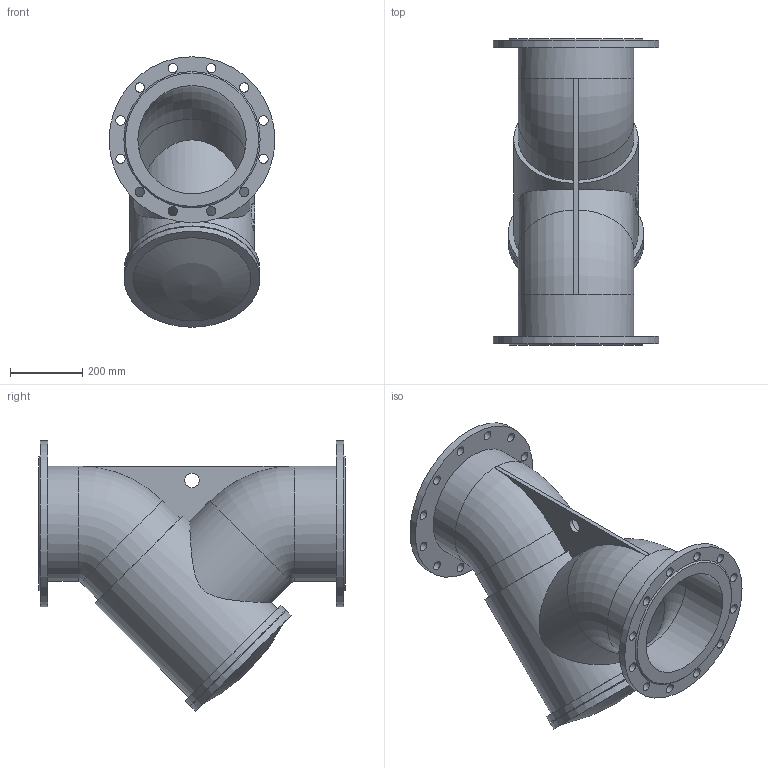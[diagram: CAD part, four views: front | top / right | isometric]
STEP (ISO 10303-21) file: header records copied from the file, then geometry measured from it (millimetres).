
FILE_DESCRIPTION(('STEP AP203'), '1');
FILE_NAME('Ôèëüòð ñåò÷àòûé ôëàíöåâûé 021Y.Z DN300 PN16', '', ('UNSPECIFIED'), ('UNSPECIFIED'), 'ASCON STEP Converter 1.6', 'ASCON Math Kernel', '');
FILE_SCHEMA(('CONFIG_CONTROL_DESIGN'));
Length unit declared in the file: millimetre
Bounding box: 460 x 850 x 750 mm (x, y, z)
Volume: 50904489.5 mm3; surface area: 2502665.4 mm2
Topology: 1 solids, 1 shells, 83 faces, 195 edges, 126 vertices
Faces by surface type: cylinder 47, plane 29, torus 4, cone 2, sphere 1
Full cylindrical faces by diameter (mm): 26 x24, 40 x1, 300 x4, 320 x2, 346 x1, 364 x1, 376 x2, 460 x2
Entity records: 3935 total; most frequent: CARTESIAN_POINT 1322, DIRECTION 409, ORIENTED_EDGE 304, EDGE_LOOP 187, AXIS2_PLACEMENT_3D 184, EDGE_CURVE 152, VERTEX_POINT 125, FACE_BOUND 107
